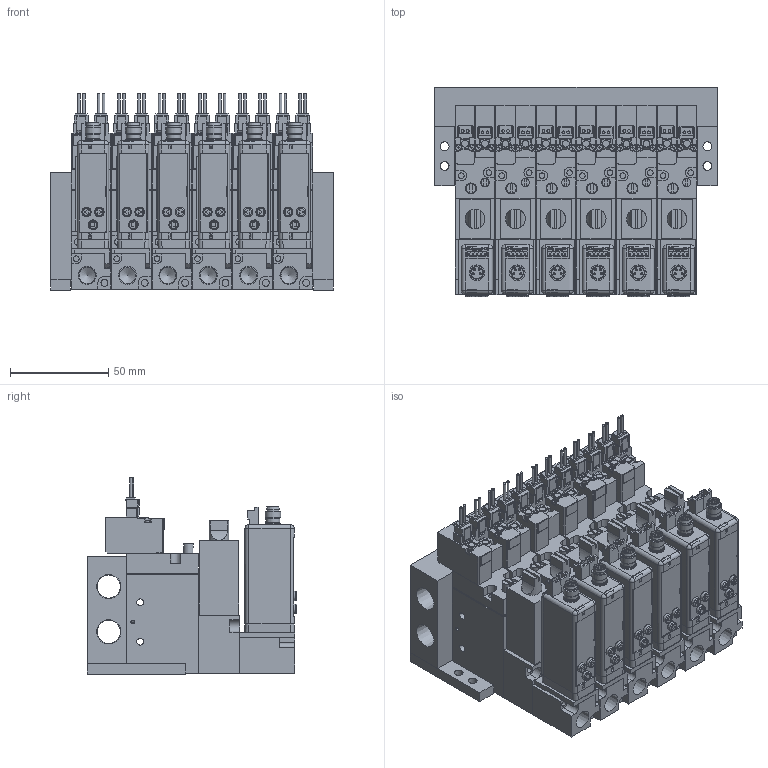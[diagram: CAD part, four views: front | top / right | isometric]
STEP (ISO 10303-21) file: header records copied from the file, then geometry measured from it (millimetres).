
FILE_DESCRIPTION(('STEP AP203'),'1');
FILE_NAME('BMPV32M2N20225AL606.stp','2025-06-16T08:56:39',(' '),(' '),'Spatial InterOp 3D',' ',' ');
FILE_SCHEMA(('CONFIG_CONTROL_DESIGN'));
Length unit declared in the file: millimetre
Products named in the file (76): BMPV32M2N20225AL606; MVS-202; ___-3(Rc); Filter Assy; __; _____; ___ ___; MB06; MB BRACKET; ___; upper plate-A; ______; ____; VACUUM VALVE FUNCTION MPV42-A; UV280-4E
Assembly tree (75 placements, depth 2):
  BMPV32M2N20225AL606
    MVS-202
    ___-3(Rc)
    Filter Assy
    __
    _____
    ___ ___
    MVS-202
    ___-3(Rc)
    Filter Assy
    __
    _____
    ___ ___
    MVS-202
    ___-3(Rc)
    Filter Assy
    __
    _____
    ___ ___
    MVS-202
    ___-3(Rc)
    Filter Assy
    __
    _____
    ___ ___
    MVS-202
    ___-3(Rc)
    Filter Assy
    __
    _____
    ___ ___
    MB06
    MB BRACKET
    MB BRACKET
    MVS-202
    ___-3(Rc)
    Filter Assy
    __
    _____
    ___ ___
    ___
    upper plate-A
    ______
    ____
    VACUUM VALVE FUNCTION MPV42-A
    ___
    upper plate-A
    ______
    ____
    VACUUM VALVE FUNCTION MPV42-A
    ___
    upper plate-A
    ______
    ____
    VACUUM VALVE FUNCTION MPV42-A
    ___
    upper plate-A
    ______
    ____
    VACUUM VALVE FUNCTION MPV42-A
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Bounding box: 143.5 x 106.6 x 99.75 mm (x, y, z)
Volume: 777991.9 mm3; surface area: 272857.2 mm2
Topology: 75 solids, 99 shells, 4745 faces, 12172 edges, 7972 vertices
Faces by surface type: plane 3879, cylinder 720, cone 104, sphere 24, torus 18
Full cylindrical faces by diameter (mm): 1 x24, 1.4 x24, 1.5 x6, 1.8 x12, 2 x12, 2.5 x16, 2.8 x24, 3 x24, 3.5 x64, 4 x6, 4.2 x6, 4.5 x28, 4.8 x18, 5 x18, 5.5 x6, 5.8 x12, 6 x6, 6.5 x24, 7 x6, 7.2 x6, 7.9 x6, 8 x12, 8.2 x6, 8.759 x6, 11.776 x2
Entity records: 143262 total; most frequent: CARTESIAN_POINT 25035, ORIENTED_EDGE 23008, DIRECTION 22842, EDGE_CURVE 11504, LINE 9616, VECTOR 9616, VERTEX_POINT 7870, AXIS2_PLACEMENT_3D 6613
